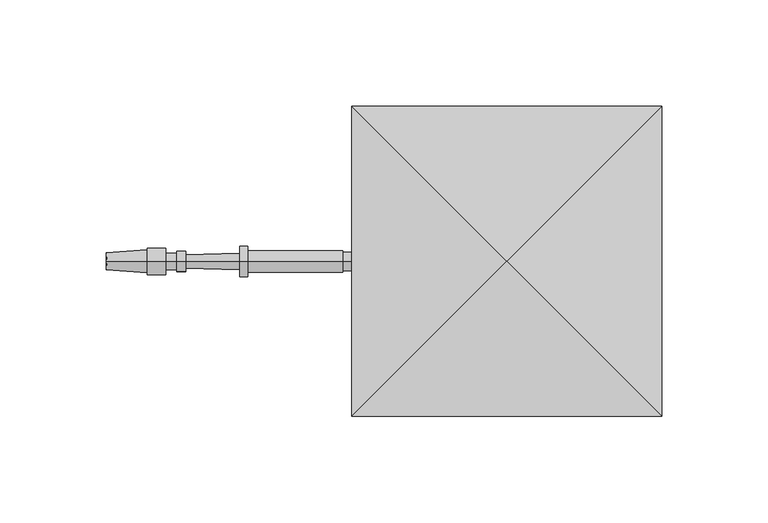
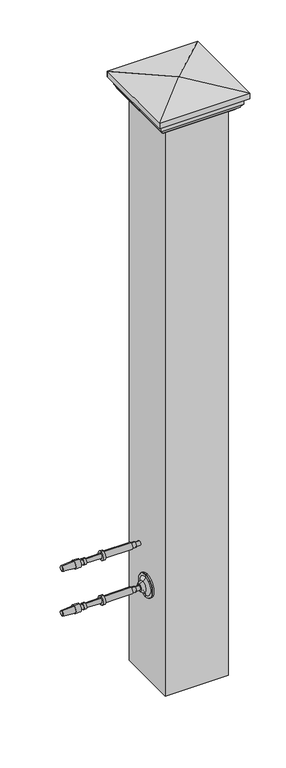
"""IFC4 building model written with IfcOpenShell, lengths in millimetres: railing geometry, RAILEASY CABLE RAILING CORNER TENSIONERS STAIR."""

from ifc_helpers import new_model, si_unit, point, frame, origin, place, context, project, spatial, polyline, circle_curve, ellipse_curve, trimmed, outline, extrude, source, transform, mapped, element, save
from ifc_brep_helpers import plane_surface, cylinder_surface, revolved_surface, advanced_brep


def railing_71b8d278(model_context):
    return source(origin(), model_context, "Body", "SolidModel", [
        advanced_brep(
        [(4032.408954, 20313.0866843, 32759.0282881), (4032.408954, 20313.0866843, 32766.1720381), (4032.408954, 20313.0866843, 32762.6001631), (3907.4650648, 20313.0866843, 32762.6001631), (3907.1694004, 20313.0866843, 32766.6246235), (3907.1694004, 20313.0866843, 32758.5757028), (3926.5127644, 20313.0866843, 32768.045719), (3926.5127644, 20313.0866843, 32757.1546072), (3926.5127644, 20313.0866843, 32768.9386877), (3926.5127644, 20313.0866843, 32756.2616385), (3935.1447956, 20313.0866843, 32768.9386877), (3935.1447956, 20313.0866843, 32756.2616385), (3935.1447956, 20313.0866843, 32766.5574377), (3935.1447956, 20313.0866843, 32758.6428885), (3940.5026081, 20313.0866843, 32766.5574377), (3940.5026081, 20313.0866843, 32758.6428885), (3940.5026081, 20313.0866843, 32767.3511877), (3940.5026081, 20313.0866843, 32757.8491385), (3944.5705769, 20313.0866843, 32767.3511877), (3944.5705769, 20313.0866843, 32757.8491385), (3944.614664, 20313.0866843, 32765.7643), (3944.614664, 20313.0866843, 32759.4360262), (3970.0048672, 20313.0866843, 32766.4696944), (3970.0048672, 20313.0866843, 32758.7306319), (3970.0048672, 20313.0866843, 32769.7439131), (3970.0048672, 20313.0866843, 32755.4564131), (3973.9736172, 20313.0866843, 32769.7439131), (3973.9736172, 20313.0866843, 32755.4564131), (3973.9736172, 20313.0866843, 32767.7595381), (3973.9736172, 20313.0866843, 32757.4407881), (4018.7212735, 20313.0866843, 32767.7595381), (4018.7212735, 20313.0866843, 32757.4407881), (4018.7212735, 20313.0866843, 32766.9657881), (4018.7212735, 20313.0866843, 32758.2345381), (4025.0712735, 20313.0866843, 32766.9657881), (4025.0712735, 20313.0866843, 32758.2345381), (4025.0712735, 20313.0866843, 32766.1720381), (4025.0712735, 20313.0866843, 32759.0282881)],
        [
            (0, 1, circle_curve(frame((4032.408954, 20313.0866843, 32762.6001631), z_axis=(1.0, 0.0, 0.0), x_axis=(0.0, 0.0, 1.0000000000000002)), 3.571875)),
            (1, 2),
            (2, 0),
            (1, 0, circle_curve(frame((4032.408954, 20313.0866843, 32762.6001631), z_axis=(1.0, 0.0, 0.0), x_axis=(0.0, 0.0, 1.0000000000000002)), 3.571875)),
            (3, 4),
            (4, 5, circle_curve(frame((3907.1694004, 20313.0866843, 32762.6001631), z_axis=(-1.0, 0.0, 0.0), x_axis=(0.0, 0.0, 1.0000000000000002)), 4.0244604)),
            (5, 3),
            (5, 4, circle_curve(frame((3907.1694004, 20313.0866843, 32762.6001631), z_axis=(-1.0, 0.0, 0.0), x_axis=(0.0, 0.0, 1.0000000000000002)), 4.0244604)),
            (4, 6),
            (6, 7, circle_curve(frame((3926.5127644, 20313.0866843, 32762.6001631), z_axis=(-1.0, 0.0, 0.0), x_axis=(0.0, 0.0, 1.0000000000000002)), 5.4455559)),
            (7, 5),
            (7, 6, circle_curve(frame((3926.5127644, 20313.0866843, 32762.6001631), z_axis=(-1.0, 0.0, 0.0), x_axis=(0.0, 0.0, 1.0000000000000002)), 5.4455559)),
            (6, 8),
            (8, 9, circle_curve(frame((3926.5127644, 20313.0866843, 32762.6001631), z_axis=(-1.0, 0.0, 0.0), x_axis=(0.0, 0.0, 1.0000000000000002)), 6.3385246)),
            (9, 7),
            (9, 8, circle_curve(frame((3926.5127644, 20313.0866843, 32762.6001631), z_axis=(-1.0, 0.0, 0.0), x_axis=(0.0, 0.0, 1.0000000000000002)), 6.3385246)),
            (8, 10),
            (10, 11, circle_curve(frame((3935.1447956, 20313.0866843, 32762.6001631), z_axis=(-1.0, 0.0, 0.0), x_axis=(0.0, 0.0, 1.0000000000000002)), 6.3385246)),
            (11, 9),
            (11, 10, circle_curve(frame((3935.1447956, 20313.0866843, 32762.6001631), z_axis=(-1.0, 0.0, 0.0), x_axis=(0.0, 0.0, 1.0000000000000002)), 6.3385246)),
            (10, 12),
            (12, 13, circle_curve(frame((3935.1447956, 20313.0866843, 32762.6001631), z_axis=(-1.0, 0.0, 0.0), x_axis=(0.0, 0.0, 1.0000000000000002)), 3.9572746)),
            (13, 11),
            (13, 12, circle_curve(frame((3935.1447956, 20313.0866843, 32762.6001631), z_axis=(-1.0, 0.0, 0.0), x_axis=(0.0, 0.0, 1.0000000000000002)), 3.9572746)),
            (12, 14),
            (14, 15, circle_curve(frame((3940.5026081, 20313.0866843, 32762.6001631), z_axis=(-1.0, 0.0, 0.0), x_axis=(0.0, 0.0, 1.0000000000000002)), 3.9572746)),
            (15, 13),
            (15, 14, circle_curve(frame((3940.5026081, 20313.0866843, 32762.6001631), z_axis=(-1.0, 0.0, 0.0), x_axis=(0.0, 0.0, 1.0000000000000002)), 3.9572746)),
            (14, 16),
            (16, 17, circle_curve(frame((3940.5026081, 20313.0866843, 32762.6001631), z_axis=(-1.0, 0.0, 0.0), x_axis=(0.0, 0.0, 1.0000000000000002)), 4.7510246)),
            (17, 15),
            (17, 16, circle_curve(frame((3940.5026081, 20313.0866843, 32762.6001631), z_axis=(-1.0, 0.0, 0.0), x_axis=(0.0, 0.0, 1.0000000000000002)), 4.7510246)),
            (16, 18),
            (18, 19, circle_curve(frame((3944.5705769, 20313.0866843, 32762.6001631), z_axis=(-1.0, 0.0, 0.0), x_axis=(0.0, 0.0, 1.0000000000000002)), 4.7510246)),
            (19, 17),
            (19, 18, circle_curve(frame((3944.5705769, 20313.0866843, 32762.6001631), z_axis=(-1.0, 0.0, 0.0), x_axis=(0.0, 0.0, 1.0000000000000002)), 4.7510246)),
            (18, 20),
            (20, 21, circle_curve(frame((3944.614664, 20313.0866843, 32762.6001631), z_axis=(-1.0, 0.0, 0.0), x_axis=(0.0, 0.0, 1.0000000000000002)), 3.1641369)),
            (21, 19),
            (21, 20, circle_curve(frame((3944.614664, 20313.0866843, 32762.6001631), z_axis=(-1.0, 0.0, 0.0), x_axis=(0.0, 0.0, 1.0000000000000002)), 3.1641369)),
            (20, 22),
            (22, 23, circle_curve(frame((3970.0048672, 20313.0866843, 32762.6001631), z_axis=(-1.0, 0.0, 0.0), x_axis=(0.0, 0.0, 1.0000000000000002)), 3.8695313)),
            (23, 21),
            (23, 22, circle_curve(frame((3970.0048672, 20313.0866843, 32762.6001631), z_axis=(-1.0, 0.0, 0.0), x_axis=(0.0, 0.0, 1.0000000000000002)), 3.8695313)),
            (22, 24),
            (24, 25, circle_curve(frame((3970.0048672, 20313.0866843, 32762.6001631), z_axis=(-1.0, 0.0, 0.0), x_axis=(0.0, 0.0, 1.0000000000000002)), 7.14375)),
            (25, 23),
            (25, 24, circle_curve(frame((3970.0048672, 20313.0866843, 32762.6001631), z_axis=(-1.0, 0.0, 0.0), x_axis=(0.0, 0.0, 1.0000000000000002)), 7.14375)),
            (24, 26),
            (26, 27, circle_curve(frame((3973.9736172, 20313.0866843, 32762.6001631), z_axis=(-1.0, 0.0, 0.0), x_axis=(0.0, 0.0, 1.0000000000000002)), 7.14375)),
            (27, 25),
            (27, 26, circle_curve(frame((3973.9736172, 20313.0866843, 32762.6001631), z_axis=(-1.0, 0.0, 0.0), x_axis=(0.0, 0.0, 1.0000000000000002)), 7.14375)),
            (26, 28),
            (28, 29, circle_curve(frame((3973.9736172, 20313.0866843, 32762.6001631), z_axis=(-1.0, 0.0, 0.0), x_axis=(0.0, 0.0, 1.0000000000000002)), 5.159375)),
            (29, 27),
            (29, 28, circle_curve(frame((3973.9736172, 20313.0866843, 32762.6001631), z_axis=(-1.0, 0.0, 0.0), x_axis=(0.0, 0.0, 1.0000000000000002)), 5.159375)),
            (28, 30),
            (30, 31, circle_curve(frame((4018.7212735, 20313.0866843, 32762.6001631), z_axis=(-1.0, 0.0, 0.0), x_axis=(0.0, 0.0, 1.0000000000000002)), 5.159375)),
            (31, 29),
            (31, 30, circle_curve(frame((4018.7212735, 20313.0866843, 32762.6001631), z_axis=(-1.0, 0.0, 0.0), x_axis=(0.0, 0.0, 1.0000000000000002)), 5.159375)),
            (30, 32),
            (32, 33, circle_curve(frame((4018.7212735, 20313.0866843, 32762.6001631), z_axis=(-1.0, 0.0, 0.0), x_axis=(0.0, 0.0, 1.0000000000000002)), 4.365625)),
            (33, 31),
            (33, 32, circle_curve(frame((4018.7212735, 20313.0866843, 32762.6001631), z_axis=(-1.0, 0.0, 0.0), x_axis=(0.0, 0.0, 1.0000000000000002)), 4.365625)),
            (32, 34),
            (34, 35, circle_curve(frame((4025.0712735, 20313.0866843, 32762.6001631), z_axis=(-1.0, 0.0, 0.0), x_axis=(0.0, 0.0, 1.0000000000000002)), 4.365625)),
            (35, 33),
            (35, 34, circle_curve(frame((4025.0712735, 20313.0866843, 32762.6001631), z_axis=(-1.0, 0.0, 0.0), x_axis=(0.0, 0.0, 1.0000000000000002)), 4.365625)),
            (34, 36),
            (36, 37, circle_curve(frame((4025.0712735, 20313.0866843, 32762.6001631), z_axis=(-1.0, 0.0, 0.0), x_axis=(0.0, 0.0, 1.0000000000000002)), 3.571875)),
            (37, 35),
            (37, 36, circle_curve(frame((4025.0712735, 20313.0866843, 32762.6001631), z_axis=(-1.0, 0.0, 0.0), x_axis=(0.0, 0.0, 1.0000000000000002)), 3.571875)),
            (36, 1),
            (0, 37),
        ],
        [
            plane_surface(frame((4032.408954, 20313.0866843, 32762.6001631), z_axis=(1.0, 0.0, 0.0), x_axis=(0.0, 0.0, 1.0))),
            revolved_surface(polyline([(3907.1694004, 20313.0866843, 32766.6246235), (3907.4650648, 20313.0866843, 32762.6001631)]), (3907.4650648, 20313.0866843, 32762.6001631), (-1.0, 0.0, 0.0)),
            revolved_surface(polyline([(3926.5127644, 20313.0866843, 32768.045719), (3907.1694004, 20313.0866843, 32766.6246235)]), (3907.4650648, 20313.0866843, 32762.6001631), (-1.0, 0.0, 0.0)),
            plane_surface(frame((3926.5127644, 20313.0866843, 32762.6001631), z_axis=(-1.0, 0.0, 0.0), x_axis=(0.0, 0.0, 1.0))),
            cylinder_surface(frame((3907.4650648, 20313.0866843, 32762.6001631), z_axis=(-1.0, 0.0, 0.0), x_axis=(0.0, 0.0, 1.0000000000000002)), 6.3385246),
            plane_surface(frame((3935.1447956, 20313.0866843, 32762.6001631), z_axis=(1.0, 0.0, 0.0), x_axis=(0.0, 0.0, 1.0))),
            cylinder_surface(frame((3907.4650648, 20313.0866843, 32762.6001631), z_axis=(-1.0, 0.0, 0.0), x_axis=(0.0, 0.0, 1.0000000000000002)), 3.9572746),
            plane_surface(frame((3940.5026081, 20313.0866843, 32762.6001631), z_axis=(-1.0, 0.0, 0.0), x_axis=(0.0, 0.0, 1.0))),
            cylinder_surface(frame((3907.4650648, 20313.0866843, 32762.6001631), z_axis=(-1.0, 0.0, 0.0), x_axis=(0.0, 0.0, 1.0000000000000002)), 4.7510246),
            plane_surface(frame((3944.614664, 20313.0866843, 32762.6001631), z_axis=(1.0, 0.0, 0.0), x_axis=(0.0, 0.0, 1.0))),
            revolved_surface(polyline([(3970.0048672, 20313.0866843, 32766.4696944), (3944.614664, 20313.0866843, 32765.7643)]), (3907.4650648, 20313.0866843, 32762.6001631), (-1.0, 0.0, 0.0)),
            plane_surface(frame((3970.0048672, 20313.0866843, 32762.6001631), z_axis=(-1.0, 0.0, 0.0), x_axis=(0.0, 0.0, 1.0))),
            cylinder_surface(frame((3907.4650648, 20313.0866843, 32762.6001631), z_axis=(-1.0, 0.0, 0.0), x_axis=(0.0, 0.0, 1.0000000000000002)), 7.14375),
            plane_surface(frame((3973.9736172, 20313.0866843, 32762.6001631), z_axis=(1.0, 0.0, 0.0), x_axis=(0.0, 0.0, 1.0))),
            cylinder_surface(frame((3907.4650648, 20313.0866843, 32762.6001631), z_axis=(-1.0, 0.0, 0.0), x_axis=(0.0, 0.0, 1.0000000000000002)), 5.159375),
            plane_surface(frame((4018.7212735, 20313.0866843, 32762.6001631), z_axis=(1.0, 0.0, 0.0), x_axis=(0.0, 0.0, 1.0))),
            cylinder_surface(frame((3907.4650648, 20313.0866843, 32762.6001631), z_axis=(-1.0, 0.0, 0.0), x_axis=(0.0, 0.0, 1.0000000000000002)), 4.365625),
            plane_surface(frame((4025.0712735, 20313.0866843, 32762.6001631), z_axis=(1.0, 0.0, 0.0), x_axis=(0.0, 0.0, 1.0))),
            cylinder_surface(frame((3907.4650648, 20313.0866843, 32762.6001631), z_axis=(-1.0, 0.0, 0.0), x_axis=(0.0, 0.0, 1.0000000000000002)), 3.571875),
        ],
        [
            (0, [[1, 2, 3]]),
            (0, [[4, -3, -2]]),
            (1, [[5, 6, 7]]),
            (1, [[-7, 8, -5]]),
            (2, [[-6, 9, 10, 11]]),
            (2, [[-8, -11, 12, -9]]),
            (3, [[-10, 13, 14, 15]]),
            (3, [[-12, -15, 16, -13]]),
            (4, [[-14, 17, 18, 19]]),
            (4, [[-16, -19, 20, -17]]),
            (5, [[-18, 21, 22, 23]]),
            (5, [[-20, -23, 24, -21]]),
            (6, [[-22, 25, 26, 27]]),
            (6, [[-24, -27, 28, -25]]),
            (7, [[-26, 29, 30, 31]]),
            (7, [[-28, -31, 32, -29]]),
            (8, [[-30, 33, 34, 35]]),
            (8, [[-32, -35, 36, -33]]),
            (9, [[-34, 37, 38, 39]]),
            (9, [[-36, -39, 40, -37]]),
            (10, [[-38, 41, 42, 43]]),
            (10, [[-40, -43, 44, -41]]),
            (11, [[-42, 45, 46, 47]]),
            (11, [[-44, -47, 48, -45]]),
            (12, [[-46, 49, 50, 51]]),
            (12, [[-48, -51, 52, -49]]),
            (13, [[-50, 53, 54, 55]]),
            (13, [[-52, -55, 56, -53]]),
            (14, [[-54, 57, 58, 59]]),
            (14, [[-56, -59, 60, -57]]),
            (15, [[-58, 61, 62, 63]]),
            (15, [[-60, -63, 64, -61]]),
            (16, [[-62, 65, 66, 67]]),
            (16, [[-64, -67, 68, -65]]),
            (17, [[-66, 69, 70, 71]]),
            (17, [[-68, -71, 72, -69]]),
            (18, [[-70, 73, -1, 74]]),
            (18, [[-72, -74, -4, -73]]),
        ],
    ),
        advanced_brep(
        [(4045.1015906, 20313.0866843, 32686.4001631), (4045.1015906, 20313.0866843, 32667.3501631), (4045.1015906, 20313.0866843, 32705.4501631), (4032.408954, 20313.0866843, 32680.8769785), (4032.408954, 20313.0866843, 32686.4001631), (4032.408954, 20313.0866843, 32691.9233478), (4037.6850504, 20313.0866843, 32677.2720381), (4037.6850504, 20313.0866843, 32695.5282881), (4042.0506754, 20313.0866843, 32671.6458254), (4042.0506754, 20313.0866843, 32701.1545009), (4042.0506754, 20313.0866843, 32667.7762941), (4042.0506754, 20313.0866843, 32705.0240321), (4042.7203406, 20313.0866843, 32667.3501631), (4042.7203406, 20313.0866843, 32705.4501631)],
        [
            (0, 1),
            (1, 2, circle_curve(frame((4045.1015906, 20313.0866843, 32686.4001631), z_axis=(1.0, 0.0, 0.0), x_axis=(0.0, 0.0, 1.0)), 19.05)),
            (2, 0),
            (2, 1, circle_curve(frame((4045.1015906, 20313.0866843, 32686.4001631), z_axis=(1.0, 0.0, 0.0), x_axis=(0.0, 0.0, 1.0)), 19.05)),
            (3, 4),
            (4, 5),
            (5, 3, circle_curve(frame((4032.408954, 20313.0866843, 32686.4001631), z_axis=(-1.0, 0.0, 0.0), x_axis=(0.0, 0.0, 1.0)), 5.5231846)),
            (3, 5, circle_curve(frame((4032.408954, 20313.0866843, 32686.4001631), z_axis=(-1.0, 0.0, 0.0), x_axis=(0.0, 0.0, 1.0)), 5.5231846)),
            (6, 3, circle_curve(frame((4040.0094591, 20313.0866843, 32686.3374304), z_axis=(0.0, 1.0, 0.0), x_axis=(-1.0, 0.0, 0.0)), 9.3586438)),
            (5, 7, circle_curve(frame((4040.0094591, 20313.0866843, 32686.4628958), z_axis=(0.0, 1.0, 0.0), x_axis=(-1.0, 0.0, 0.0)), 9.3586438)),
            (7, 6, circle_curve(frame((4037.6850504, 20313.0866843, 32686.4001631), z_axis=(-1.0, 0.0, 0.0), x_axis=(0.0, 0.0, 1.0)), 9.128125)),
            (6, 7, circle_curve(frame((4037.6850504, 20313.0866843, 32686.4001631), z_axis=(-1.0, 0.0, 0.0), x_axis=(0.0, 0.0, 1.0)), 9.128125)),
            (8, 6, circle_curve(frame((4036.2424634, 20313.0866843, 32671.6458254), z_axis=(0.0, -1.0, 0.0), x_axis=(-1.0, 0.0, 0.0)), 5.8082121)),
            (7, 9, circle_curve(frame((4036.2424634, 20313.0866843, 32701.1545009), z_axis=(0.0, -1.0, 0.0), x_axis=(-1.0, 0.0, 0.0)), 5.8082121)),
            (9, 8, circle_curve(frame((4042.0506754, 20313.0866843, 32686.4001631), z_axis=(-1.0, 0.0, 0.0), x_axis=(0.0, 0.0, 1.0)), 14.7543378)),
            (8, 9, circle_curve(frame((4042.0506754, 20313.0866843, 32686.4001631), z_axis=(-1.0, 0.0, 0.0), x_axis=(0.0, 0.0, 1.0)), 14.7543378)),
            (10, 8),
            (9, 11),
            (11, 10, circle_curve(frame((4042.0506754, 20313.0866843, 32686.4001631), z_axis=(-1.0, 0.0, 0.0), x_axis=(0.0, 0.0, 1.0)), 18.623869)),
            (10, 11, circle_curve(frame((4042.0506754, 20313.0866843, 32686.4001631), z_axis=(-1.0, 0.0, 0.0), x_axis=(0.0, 0.0, 1.0)), 18.623869)),
            (12, 10),
            (11, 13),
            (13, 12, circle_curve(frame((4042.7203406, 20313.0866843, 32686.4001631), z_axis=(-1.0, 0.0, 0.0), x_axis=(0.0, 0.0, 1.0)), 19.05)),
            (12, 13, circle_curve(frame((4042.7203406, 20313.0866843, 32686.4001631), z_axis=(-1.0, 0.0, 0.0), x_axis=(0.0, 0.0, 1.0)), 19.05)),
            (1, 12),
            (13, 2),
        ],
        [
            plane_surface(frame((4045.1015906, 20313.0866843, 32686.4001631), z_axis=(1.0, 0.0, 0.0), x_axis=(0.0, 0.0, 1.0))),
            plane_surface(frame((4032.408954, 20313.0866843, 32686.4001631), z_axis=(-1.0, 0.0, 0.0), x_axis=(0.0, 0.0, 1.0))),
            revolved_surface(trimmed(ellipse_curve(frame((4040.0094591, 20313.0866843, 32686.4628958), z_axis=(0.0, 1.0, 0.0), x_axis=(-1.0, 0.0, 0.0)), 9.3586438, 9.3586438), [point((4032.408954, 20313.0866843, 32691.9233478))], [point((4037.6850504, 20313.0866843, 32695.5282881))], True, "CARTESIAN"), (4045.1015906, 20313.0866843, 32686.4001631), (1.0, 0.0, 0.0)),
            revolved_surface(trimmed(ellipse_curve(frame((4036.2424634, 20313.0866843, 32701.1545009), z_axis=(0.0, -1.0, 0.0), x_axis=(-1.0, 0.0, 0.0)), 5.8082121, 5.8082121), [point((4037.6850504, 20313.0866843, 32695.5282881))], [point((4042.0506754, 20313.0866843, 32701.1545009))], True, "CARTESIAN"), (4045.1015906, 20313.0866843, 32686.4001631), (1.0, 0.0, 0.0)),
            plane_surface(frame((4042.0506754, 20313.0866843, 32686.4001631), z_axis=(-1.0, 0.0, 0.0), x_axis=(0.0, 0.0, 1.0))),
            revolved_surface(polyline([(4042.0506754, 20313.0866843, 32705.0240321), (4042.7203406, 20313.0866843, 32705.4501631)]), (4045.1015906, 20313.0866843, 32686.4001631), (1.0, 0.0, 0.0)),
            cylinder_surface(frame((4045.1015906, 20313.0866843, 32686.4001631), z_axis=(1.0, 0.0, 0.0), x_axis=(0.0, 0.0, 1.0)), 19.05),
        ],
        [
            (0, [[1, 2, 3]]),
            (0, [[-3, 4, -1]]),
            (1, [[5, 6, 7]]),
            (1, [[-6, -5, 8]]),
            (2, [[9, -7, 10, 11]]),
            (2, [[-10, -8, -9, 12]]),
            (3, [[13, -11, 14, 15]]),
            (3, [[-14, -12, -13, 16]]),
            (4, [[17, -15, 18, 19]]),
            (4, [[-18, -16, -17, 20]]),
            (5, [[21, -19, 22, 23]]),
            (5, [[-22, -20, -21, 24]]),
            (6, [[25, -23, 26, -2]]),
            (6, [[-26, -24, -25, -4]]),
        ],
    ),
        advanced_brep(
        [(4032.408954, 20313.0866843, 32682.8282881), (4032.408954, 20313.0866843, 32689.9720381), (4032.408954, 20313.0866843, 32686.4001631), (3907.4650648, 20313.0866843, 32686.4001631), (3907.1694004, 20313.0866843, 32690.4246235), (3907.1694004, 20313.0866843, 32682.3757028), (3926.5127644, 20313.0866843, 32691.845719), (3926.5127644, 20313.0866843, 32680.9546072), (3926.5127644, 20313.0866843, 32692.7386877), (3926.5127644, 20313.0866843, 32680.0616385), (3935.1447956, 20313.0866843, 32692.7386877), (3935.1447956, 20313.0866843, 32680.0616385), (3935.1447956, 20313.0866843, 32690.3574377), (3935.1447956, 20313.0866843, 32682.4428885), (3940.5026081, 20313.0866843, 32690.3574377), (3940.5026081, 20313.0866843, 32682.4428885), (3940.5026081, 20313.0866843, 32691.1511877), (3940.5026081, 20313.0866843, 32681.6491385), (3944.5705769, 20313.0866843, 32691.1511877), (3944.5705769, 20313.0866843, 32681.6491385), (3944.614664, 20313.0866843, 32689.5643), (3944.614664, 20313.0866843, 32683.2360262), (3970.0048672, 20313.0866843, 32690.2696944), (3970.0048672, 20313.0866843, 32682.5306319), (3970.0048672, 20313.0866843, 32693.5439131), (3970.0048672, 20313.0866843, 32679.2564131), (3973.9736172, 20313.0866843, 32693.5439131), (3973.9736172, 20313.0866843, 32679.2564131), (3973.9736172, 20313.0866843, 32691.5595381), (3973.9736172, 20313.0866843, 32681.2407881), (4018.7212735, 20313.0866843, 32691.5595381), (4018.7212735, 20313.0866843, 32681.2407881), (4018.7212735, 20313.0866843, 32690.7657881), (4018.7212735, 20313.0866843, 32682.0345381), (4025.0712735, 20313.0866843, 32690.7657881), (4025.0712735, 20313.0866843, 32682.0345381), (4025.0712735, 20313.0866843, 32689.9720381), (4025.0712735, 20313.0866843, 32682.8282881)],
        [
            (0, 1, circle_curve(frame((4032.408954, 20313.0866843, 32686.4001631), z_axis=(1.0, 0.0, 0.0), x_axis=(0.0, 0.0, 1.0000000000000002)), 3.571875)),
            (1, 2),
            (2, 0),
            (1, 0, circle_curve(frame((4032.408954, 20313.0866843, 32686.4001631), z_axis=(1.0, 0.0, 0.0), x_axis=(0.0, 0.0, 1.0000000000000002)), 3.571875)),
            (3, 4),
            (4, 5, circle_curve(frame((3907.1694004, 20313.0866843, 32686.4001631), z_axis=(-1.0, 0.0, 0.0), x_axis=(0.0, 0.0, 1.0000000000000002)), 4.0244604)),
            (5, 3),
            (5, 4, circle_curve(frame((3907.1694004, 20313.0866843, 32686.4001631), z_axis=(-1.0, 0.0, 0.0), x_axis=(0.0, 0.0, 1.0000000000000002)), 4.0244604)),
            (4, 6),
            (6, 7, circle_curve(frame((3926.5127644, 20313.0866843, 32686.4001631), z_axis=(-1.0, 0.0, 0.0), x_axis=(0.0, 0.0, 1.0000000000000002)), 5.4455559)),
            (7, 5),
            (7, 6, circle_curve(frame((3926.5127644, 20313.0866843, 32686.4001631), z_axis=(-1.0, 0.0, 0.0), x_axis=(0.0, 0.0, 1.0000000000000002)), 5.4455559)),
            (6, 8),
            (8, 9, circle_curve(frame((3926.5127644, 20313.0866843, 32686.4001631), z_axis=(-1.0, 0.0, 0.0), x_axis=(0.0, 0.0, 1.0000000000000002)), 6.3385246)),
            (9, 7),
            (9, 8, circle_curve(frame((3926.5127644, 20313.0866843, 32686.4001631), z_axis=(-1.0, 0.0, 0.0), x_axis=(0.0, 0.0, 1.0000000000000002)), 6.3385246)),
            (8, 10),
            (10, 11, circle_curve(frame((3935.1447956, 20313.0866843, 32686.4001631), z_axis=(-1.0, 0.0, 0.0), x_axis=(0.0, 0.0, 1.0000000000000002)), 6.3385246)),
            (11, 9),
            (11, 10, circle_curve(frame((3935.1447956, 20313.0866843, 32686.4001631), z_axis=(-1.0, 0.0, 0.0), x_axis=(0.0, 0.0, 1.0000000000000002)), 6.3385246)),
            (10, 12),
            (12, 13, circle_curve(frame((3935.1447956, 20313.0866843, 32686.4001631), z_axis=(-1.0, 0.0, 0.0), x_axis=(0.0, 0.0, 1.0000000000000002)), 3.9572746)),
            (13, 11),
            (13, 12, circle_curve(frame((3935.1447956, 20313.0866843, 32686.4001631), z_axis=(-1.0, 0.0, 0.0), x_axis=(0.0, 0.0, 1.0000000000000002)), 3.9572746)),
            (12, 14),
            (14, 15, circle_curve(frame((3940.5026081, 20313.0866843, 32686.4001631), z_axis=(-1.0, 0.0, 0.0), x_axis=(0.0, 0.0, 1.0000000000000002)), 3.9572746)),
            (15, 13),
            (15, 14, circle_curve(frame((3940.5026081, 20313.0866843, 32686.4001631), z_axis=(-1.0, 0.0, 0.0), x_axis=(0.0, 0.0, 1.0000000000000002)), 3.9572746)),
            (14, 16),
            (16, 17, circle_curve(frame((3940.5026081, 20313.0866843, 32686.4001631), z_axis=(-1.0, 0.0, 0.0), x_axis=(0.0, 0.0, 1.0000000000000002)), 4.7510246)),
            (17, 15),
            (17, 16, circle_curve(frame((3940.5026081, 20313.0866843, 32686.4001631), z_axis=(-1.0, 0.0, 0.0), x_axis=(0.0, 0.0, 1.0000000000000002)), 4.7510246)),
            (16, 18),
            (18, 19, circle_curve(frame((3944.5705769, 20313.0866843, 32686.4001631), z_axis=(-1.0, 0.0, 0.0), x_axis=(0.0, 0.0, 1.0000000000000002)), 4.7510246)),
            (19, 17),
            (19, 18, circle_curve(frame((3944.5705769, 20313.0866843, 32686.4001631), z_axis=(-1.0, 0.0, 0.0), x_axis=(0.0, 0.0, 1.0000000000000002)), 4.7510246)),
            (18, 20),
            (20, 21, circle_curve(frame((3944.614664, 20313.0866843, 32686.4001631), z_axis=(-1.0, 0.0, 0.0), x_axis=(0.0, 0.0, 1.0000000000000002)), 3.1641369)),
            (21, 19),
            (21, 20, circle_curve(frame((3944.614664, 20313.0866843, 32686.4001631), z_axis=(-1.0, 0.0, 0.0), x_axis=(0.0, 0.0, 1.0000000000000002)), 3.1641369)),
            (20, 22),
            (22, 23, circle_curve(frame((3970.0048672, 20313.0866843, 32686.4001631), z_axis=(-1.0, 0.0, 0.0), x_axis=(0.0, 0.0, 1.0000000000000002)), 3.8695313)),
            (23, 21),
            (23, 22, circle_curve(frame((3970.0048672, 20313.0866843, 32686.4001631), z_axis=(-1.0, 0.0, 0.0), x_axis=(0.0, 0.0, 1.0000000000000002)), 3.8695313)),
            (22, 24),
            (24, 25, circle_curve(frame((3970.0048672, 20313.0866843, 32686.4001631), z_axis=(-1.0, 0.0, 0.0), x_axis=(0.0, 0.0, 1.0000000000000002)), 7.14375)),
            (25, 23),
            (25, 24, circle_curve(frame((3970.0048672, 20313.0866843, 32686.4001631), z_axis=(-1.0, 0.0, 0.0), x_axis=(0.0, 0.0, 1.0000000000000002)), 7.14375)),
            (24, 26),
            (26, 27, circle_curve(frame((3973.9736172, 20313.0866843, 32686.4001631), z_axis=(-1.0, 0.0, 0.0), x_axis=(0.0, 0.0, 1.0000000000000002)), 7.14375)),
            (27, 25),
            (27, 26, circle_curve(frame((3973.9736172, 20313.0866843, 32686.4001631), z_axis=(-1.0, 0.0, 0.0), x_axis=(0.0, 0.0, 1.0000000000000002)), 7.14375)),
            (26, 28),
            (28, 29, circle_curve(frame((3973.9736172, 20313.0866843, 32686.4001631), z_axis=(-1.0, 0.0, 0.0), x_axis=(0.0, 0.0, 1.0000000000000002)), 5.159375)),
            (29, 27),
            (29, 28, circle_curve(frame((3973.9736172, 20313.0866843, 32686.4001631), z_axis=(-1.0, 0.0, 0.0), x_axis=(0.0, 0.0, 1.0000000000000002)), 5.159375)),
            (28, 30),
            (30, 31, circle_curve(frame((4018.7212735, 20313.0866843, 32686.4001631), z_axis=(-1.0, 0.0, 0.0), x_axis=(0.0, 0.0, 1.0000000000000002)), 5.159375)),
            (31, 29),
            (31, 30, circle_curve(frame((4018.7212735, 20313.0866843, 32686.4001631), z_axis=(-1.0, 0.0, 0.0), x_axis=(0.0, 0.0, 1.0000000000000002)), 5.159375)),
            (30, 32),
            (32, 33, circle_curve(frame((4018.7212735, 20313.0866843, 32686.4001631), z_axis=(-1.0, 0.0, 0.0), x_axis=(0.0, 0.0, 1.0000000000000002)), 4.365625)),
            (33, 31),
            (33, 32, circle_curve(frame((4018.7212735, 20313.0866843, 32686.4001631), z_axis=(-1.0, 0.0, 0.0), x_axis=(0.0, 0.0, 1.0000000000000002)), 4.365625)),
            (32, 34),
            (34, 35, circle_curve(frame((4025.0712735, 20313.0866843, 32686.4001631), z_axis=(-1.0, 0.0, 0.0), x_axis=(0.0, 0.0, 1.0000000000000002)), 4.365625)),
            (35, 33),
            (35, 34, circle_curve(frame((4025.0712735, 20313.0866843, 32686.4001631), z_axis=(-1.0, 0.0, 0.0), x_axis=(0.0, 0.0, 1.0000000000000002)), 4.365625)),
            (34, 36),
            (36, 37, circle_curve(frame((4025.0712735, 20313.0866843, 32686.4001631), z_axis=(-1.0, 0.0, 0.0), x_axis=(0.0, 0.0, 1.0000000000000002)), 3.571875)),
            (37, 35),
            (37, 36, circle_curve(frame((4025.0712735, 20313.0866843, 32686.4001631), z_axis=(-1.0, 0.0, 0.0), x_axis=(0.0, 0.0, 1.0000000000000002)), 3.571875)),
            (36, 1),
            (0, 37),
        ],
        [
            plane_surface(frame((4032.408954, 20313.0866843, 32686.4001631), z_axis=(1.0, 0.0, 0.0), x_axis=(0.0, 0.0, 1.0))),
            revolved_surface(polyline([(3907.1694004, 20313.0866843, 32690.4246235), (3907.4650648, 20313.0866843, 32686.4001631)]), (3907.4650648, 20313.0866843, 32686.4001631), (-1.0, 0.0, 0.0)),
            revolved_surface(polyline([(3926.5127644, 20313.0866843, 32691.845719), (3907.1694004, 20313.0866843, 32690.4246235)]), (3907.4650648, 20313.0866843, 32686.4001631), (-1.0, 0.0, 0.0)),
            plane_surface(frame((3926.5127644, 20313.0866843, 32686.4001631), z_axis=(-1.0, 0.0, 0.0), x_axis=(0.0, 0.0, 1.0))),
            cylinder_surface(frame((3907.4650648, 20313.0866843, 32686.4001631), z_axis=(-1.0, 0.0, 0.0), x_axis=(0.0, 0.0, 1.0000000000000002)), 6.3385246),
            plane_surface(frame((3935.1447956, 20313.0866843, 32686.4001631), z_axis=(1.0, 0.0, 0.0), x_axis=(0.0, 0.0, 1.0))),
            cylinder_surface(frame((3907.4650648, 20313.0866843, 32686.4001631), z_axis=(-1.0, 0.0, 0.0), x_axis=(0.0, 0.0, 1.0000000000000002)), 3.9572746),
            plane_surface(frame((3940.5026081, 20313.0866843, 32686.4001631), z_axis=(-1.0, 0.0, 0.0), x_axis=(0.0, 0.0, 1.0))),
            cylinder_surface(frame((3907.4650648, 20313.0866843, 32686.4001631), z_axis=(-1.0, 0.0, 0.0), x_axis=(0.0, 0.0, 1.0000000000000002)), 4.7510246),
            plane_surface(frame((3944.614664, 20313.0866843, 32686.4001631), z_axis=(1.0, 0.0, 0.0), x_axis=(0.0, 0.0, 1.0))),
            revolved_surface(polyline([(3970.0048672, 20313.0866843, 32690.2696944), (3944.614664, 20313.0866843, 32689.5643)]), (3907.4650648, 20313.0866843, 32686.4001631), (-1.0, 0.0, 0.0)),
            plane_surface(frame((3970.0048672, 20313.0866843, 32686.4001631), z_axis=(-1.0, 0.0, 0.0), x_axis=(0.0, 0.0, 1.0))),
            cylinder_surface(frame((3907.4650648, 20313.0866843, 32686.4001631), z_axis=(-1.0, 0.0, 0.0), x_axis=(0.0, 0.0, 1.0000000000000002)), 7.14375),
            plane_surface(frame((3973.9736172, 20313.0866843, 32686.4001631), z_axis=(1.0, 0.0, 0.0), x_axis=(0.0, 0.0, 1.0))),
            cylinder_surface(frame((3907.4650648, 20313.0866843, 32686.4001631), z_axis=(-1.0, 0.0, 0.0), x_axis=(0.0, 0.0, 1.0000000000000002)), 5.159375),
            plane_surface(frame((4018.7212735, 20313.0866843, 32686.4001631), z_axis=(1.0, 0.0, 0.0), x_axis=(0.0, 0.0, 1.0))),
            cylinder_surface(frame((3907.4650648, 20313.0866843, 32686.4001631), z_axis=(-1.0, 0.0, 0.0), x_axis=(0.0, 0.0, 1.0000000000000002)), 4.365625),
            plane_surface(frame((4025.0712735, 20313.0866843, 32686.4001631), z_axis=(1.0, 0.0, 0.0), x_axis=(0.0, 0.0, 1.0))),
            cylinder_surface(frame((3907.4650648, 20313.0866843, 32686.4001631), z_axis=(-1.0, 0.0, 0.0), x_axis=(0.0, 0.0, 1.0000000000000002)), 3.571875),
        ],
        [
            (0, [[1, 2, 3]]),
            (0, [[4, -3, -2]]),
            (1, [[5, 6, 7]]),
            (1, [[-7, 8, -5]]),
            (2, [[-6, 9, 10, 11]]),
            (2, [[-8, -11, 12, -9]]),
            (3, [[-10, 13, 14, 15]]),
            (3, [[-12, -15, 16, -13]]),
            (4, [[-14, 17, 18, 19]]),
            (4, [[-16, -19, 20, -17]]),
            (5, [[-18, 21, 22, 23]]),
            (5, [[-20, -23, 24, -21]]),
            (6, [[-22, 25, 26, 27]]),
            (6, [[-24, -27, 28, -25]]),
            (7, [[-26, 29, 30, 31]]),
            (7, [[-28, -31, 32, -29]]),
            (8, [[-30, 33, 34, 35]]),
            (8, [[-32, -35, 36, -33]]),
            (9, [[-34, 37, 38, 39]]),
            (9, [[-36, -39, 40, -37]]),
            (10, [[-38, 41, 42, 43]]),
            (10, [[-40, -43, 44, -41]]),
            (11, [[-42, 45, 46, 47]]),
            (11, [[-44, -47, 48, -45]]),
            (12, [[-46, 49, 50, 51]]),
            (12, [[-48, -51, 52, -49]]),
            (13, [[-50, 53, 54, 55]]),
            (13, [[-52, -55, 56, -53]]),
            (14, [[-54, 57, 58, 59]]),
            (14, [[-56, -59, 60, -57]]),
            (15, [[-58, 61, 62, 63]]),
            (15, [[-60, -63, 64, -61]]),
            (16, [[-62, 65, 66, 67]]),
            (16, [[-64, -67, 68, -65]]),
            (17, [[-66, 69, 70, 71]]),
            (17, [[-68, -71, 72, -69]]),
            (18, [[-70, 73, -1, 74]]),
            (18, [[-72, -74, -4, -73]]),
        ],
    ),
        extrude(outline(polyline([(4146.7188898, 20363.8866843), (4146.7188898, 20262.2866843), (4045.1188898, 20262.2866843), (4045.1188898, 20363.8866843), (4146.7188898, 20363.8866843)])), frame((0.0, 0.0, 32527.3789062), z_axis=(0.0, 0.0, 1.0), x_axis=(1.0, 0.0, 0.0)), (0.0, 0.0, 1.0), 965.2),
        advanced_brep(
        [(4168.9438898, 20240.0616843, 33527.5039062), (4095.9188898, 20313.0866843, 33537.0289063), (4022.8938898, 20240.0616843, 33527.5039062), (4168.9438898, 20240.0616843, 33517.9789062), (4022.8938898, 20240.0616843, 33517.9789062), (4162.5938898, 20246.4116843, 33517.9789062), (4029.2438898, 20246.4116843, 33517.9789062), (4162.5938898, 20246.4116843, 33506.8203026), (4029.2438898, 20246.4116843, 33506.8203026), (4158.922796, 20250.082778, 33500.5164062), (4032.9149835, 20250.082778, 33500.5164062), (4155.747796, 20253.257778, 33500.5164062), (4036.0899835, 20253.257778, 33500.5164062), (4149.397796, 20259.607778, 33494.1664062), (4042.4399835, 20259.607778, 33494.1664062), (4149.397796, 20259.607778, 33492.5789063), (4042.4399835, 20259.607778, 33492.5789063), (4095.9188898, 20313.0866843, 33492.5789063)],
        [
            (0, 1),
            (1, 2),
            (2, 0),
            (3, 0),
            (2, 4),
            (4, 3),
            (5, 3),
            (4, 6),
            (6, 5),
            (7, 5),
            (6, 8),
            (8, 7),
            (9, 7, ellipse_curve(frame((4171.622796, 20237.382778, 33497.3414063), z_axis=(0.7071067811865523, 0.7071067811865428, 0.0), x_axis=(0.7071067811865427, -0.7071067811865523, 0.0)), 18.5132723, 13.0908604)),
            (8, 10, ellipse_curve(frame((4020.2149835, 20237.382778, 33497.3414063), z_axis=(-0.7071067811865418, 0.7071067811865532, 0.0), x_axis=(0.7071067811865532, 0.7071067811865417, 0.0)), 18.5132723, 13.0908604)),
            (10, 9),
            (11, 9),
            (10, 12),
            (12, 11),
            (13, 11, ellipse_curve(frame((4149.397796, 20259.607778, 33500.5164062), z_axis=(-0.7071067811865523, -0.7071067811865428, 0.0), x_axis=(-0.7071067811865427, 0.7071067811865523, 0.0)), 8.9802561, 6.35)),
            (12, 14, ellipse_curve(frame((4042.4399835, 20259.607778, 33500.5164062), z_axis=(0.7071067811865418, -0.7071067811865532, 0.0), x_axis=(-0.7071067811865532, -0.7071067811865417, 0.0)), 8.9802561, 6.35)),
            (14, 13),
            (15, 13),
            (14, 16),
            (16, 15),
            (17, 15),
            (16, 17),
            (17, 1),
        ],
        [
            plane_surface(frame((3978.7171811, 20240.0616843, 33527.5039062), z_axis=(0.0, -0.12933918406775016, 0.9916004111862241), x_axis=(1.0, 0.0, 0.0))),
            plane_surface(frame((3978.7171811, 20240.0616843, 33517.9789062), z_axis=(0.0, -1.0, 0.0), x_axis=(1.0, 0.0, 0.0))),
            plane_surface(frame((3978.7171811, 20246.4116843, 33517.9789062), z_axis=(0.0, 0.0, -1.0), x_axis=(1.0, 0.0, 0.0))),
            plane_surface(frame((3978.7171811, 20246.4116843, 33506.8203026), z_axis=(0.0, -1.0, 0.0), x_axis=(1.0, 0.0, 0.0))),
            revolved_surface(polyline([(4184.713656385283, 20250.4736384, 33497.3414063), (4007.124123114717, 20250.4736384, 33497.3414063)]), (4205.2124692, 20237.382778, 33497.3414063), (1.0, 0.0, 0.0)),
            plane_surface(frame((3978.7171811, 20253.257778, 33500.5164062), z_axis=(0.0, 0.0, -1.0), x_axis=(1.0, 0.0, 0.0))),
            cylinder_surface(frame((4205.2124692, 20259.607778, 33500.5164062), z_axis=(-1.0, 0.0, 0.0), x_axis=(0.0, 1.0, 0.0)), 6.35),
            plane_surface(frame((3978.7171811, 20259.607778, 33492.5789063), z_axis=(0.0, -1.0, 0.0), x_axis=(1.0, 0.0, 0.0))),
            plane_surface(frame((3978.7171811, 20313.0866843, 33492.5789063), z_axis=(0.0, 0.0, -1.0), x_axis=(1.0, 0.0, 0.0))),
            plane_surface(frame((4095.9188898, 20313.0866843, 33721.1789063), z_axis=(0.7071067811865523, 0.7071067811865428, 0.0), x_axis=(0.0, 0.0, -1.0))),
            plane_surface(frame((3962.5688898, 20179.7366843, 33721.1789063), z_axis=(-0.7071067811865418, 0.7071067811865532, 0.0), x_axis=(0.0, 0.0, -1.0))),
        ],
        [
            (0, [[1, 2, 3]]),
            (1, [[4, -3, 5, 6]]),
            (2, [[7, -6, 8, 9]]),
            (3, [[10, -9, 11, 12]]),
            (4, [[13, -12, 14, 15]]),
            (5, [[16, -15, 17, 18]]),
            (6, [[19, -18, 20, 21]]),
            (7, [[22, -21, 23, 24]]),
            (8, [[25, -24, 26]]),
            (9, [[-1, -4, -7, -10, -13, -16, -19, -22, -25, 27]]),
            (10, [[-2, -27, -26, -23, -20, -17, -14, -11, -8, -5]]),
        ],
    ),
        advanced_brep(
        [(4095.9188898, 20313.0866843, 33537.0289063), (4168.9438898, 20386.1116843, 33527.5039062), (4022.8938898, 20386.1116843, 33527.5039062), (4168.9438898, 20386.1116843, 33517.9789062), (4022.8938898, 20386.1116843, 33517.9789062), (4162.5938898, 20379.7616843, 33517.9789062), (4029.2438898, 20379.7616843, 33517.9789062), (4162.5938898, 20379.7616843, 33506.8203026), (4029.2438898, 20379.7616843, 33506.8203026), (4158.922796, 20376.0905905, 33500.5164062), (4032.9149835, 20376.0905905, 33500.5164062), (4155.747796, 20372.9155905, 33500.5164062), (4036.0899835, 20372.9155905, 33500.5164062), (4149.397796, 20366.5655905, 33494.1664062), (4042.4399835, 20366.5655905, 33494.1664062), (4149.397796, 20366.5655905, 33492.5789063), (4042.4399835, 20366.5655905, 33492.5789063), (4095.9188898, 20313.0866843, 33492.5789063)],
        [
            (0, 1),
            (1, 2),
            (2, 0),
            (1, 3),
            (3, 4),
            (4, 2),
            (3, 5),
            (5, 6),
            (6, 4),
            (5, 7),
            (7, 8),
            (8, 6),
            (7, 9, ellipse_curve(frame((4171.622796, 20388.7905905, 33497.3414063), z_axis=(0.7071067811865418, -0.7071067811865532, 0.0), x_axis=(0.7071067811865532, 0.7071067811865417, 0.0)), 18.5132723, 13.0908604)),
            (9, 10),
            (10, 8, ellipse_curve(frame((4020.2149835, 20388.7905905, 33497.3414063), z_axis=(-0.7071067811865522, -0.7071067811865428, 0.0), x_axis=(0.7071067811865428, -0.7071067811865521, 0.0)), 18.5132723, 13.0908604)),
            (9, 11),
            (11, 12),
            (12, 10),
            (11, 13, ellipse_curve(frame((4149.397796, 20366.5655905, 33500.5164062), z_axis=(-0.7071067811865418, 0.7071067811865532, 0.0), x_axis=(-0.7071067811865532, -0.7071067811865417, 0.0)), 8.9802561, 6.35)),
            (13, 14),
            (14, 12, ellipse_curve(frame((4042.4399835, 20366.5655905, 33500.5164062), z_axis=(0.7071067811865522, 0.7071067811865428, 0.0), x_axis=(-0.7071067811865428, 0.7071067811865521, 0.0)), 8.9802561, 6.35)),
            (13, 15),
            (15, 16),
            (16, 14),
            (15, 17),
            (17, 16),
            (0, 17),
        ],
        [
            plane_surface(frame((3978.7171811, 20313.0866843, 33537.0289063), z_axis=(0.0, 0.12933918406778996, 0.9916004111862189), x_axis=(1.0, 0.0, 0.0))),
            plane_surface(frame((3978.7171811, 20386.1116843, 33527.5039062), z_axis=(0.0, 1.0, 0.0), x_axis=(1.0, 0.0, 0.0))),
            plane_surface(frame((3978.7171811, 20386.1116843, 33517.9789062), z_axis=(0.0, 0.0, -1.0), x_axis=(1.0, 0.0, 0.0))),
            plane_surface(frame((3978.7171811, 20379.7616843, 33517.9789062), z_axis=(0.0, 1.0, 0.0), x_axis=(1.0, 0.0, 0.0))),
            revolved_surface(polyline([(4184.713656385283, 20375.6997301, 33497.3414063), (4007.124123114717, 20375.6997301, 33497.3414063)]), (4205.2124692, 20388.7905905, 33497.3414063), (1.0, 0.0, 0.0)),
            plane_surface(frame((3978.7171811, 20376.0905905, 33500.5164062), z_axis=(0.0, 0.0, -1.0), x_axis=(1.0, 0.0, 0.0))),
            cylinder_surface(frame((4205.2124692, 20366.5655905, 33500.5164062), z_axis=(-1.0, 0.0, 0.0), x_axis=(0.0, -1.0, 0.0)), 6.35),
            plane_surface(frame((3978.7171811, 20366.5655905, 33494.1664062), z_axis=(0.0, 1.0, 0.0), x_axis=(1.0, 0.0, 0.0))),
            plane_surface(frame((3978.7171811, 20366.5655905, 33492.5789063), z_axis=(0.0, 0.0, -1.0), x_axis=(1.0, 0.0, 0.0))),
            plane_surface(frame((4205.2124692, 20422.3802636, 33721.1789063), z_axis=(0.7071067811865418, -0.7071067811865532, 0.0), x_axis=(0.0, 0.0, -1.0))),
            plane_surface(frame((4095.9188898, 20313.0866843, 33721.1789063), z_axis=(-0.7071067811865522, -0.7071067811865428, 0.0), x_axis=(0.0, 0.0, -1.0))),
        ],
        [
            (0, [[1, 2, 3]]),
            (1, [[4, 5, 6, -2]]),
            (2, [[7, 8, 9, -5]]),
            (3, [[10, 11, 12, -8]]),
            (4, [[13, 14, 15, -11]]),
            (5, [[16, 17, 18, -14]]),
            (6, [[19, 20, 21, -17]]),
            (7, [[22, 23, 24, -20]]),
            (8, [[25, 26, -23]]),
            (9, [[-1, 27, -25, -22, -19, -16, -13, -10, -7, -4]]),
            (10, [[-3, -6, -9, -12, -15, -18, -21, -24, -26, -27]]),
        ],
    ),
        advanced_brep(
        [(4095.9188898, 20313.0866843, 33537.0289063), (4168.9438898, 20240.0616843, 33527.5039062), (4168.9438898, 20386.1116843, 33527.5039062), (4168.9438898, 20240.0616843, 33517.9789062), (4168.9438898, 20386.1116843, 33517.9789062), (4162.5938898, 20246.4116843, 33517.9789062), (4162.5938898, 20379.7616843, 33517.9789062), (4162.5938898, 20246.4116843, 33506.8203026), (4162.5938898, 20379.7616843, 33506.8203026), (4158.922796, 20250.082778, 33500.5164062), (4158.922796, 20376.0905905, 33500.5164062), (4155.747796, 20253.257778, 33500.5164062), (4155.747796, 20372.9155905, 33500.5164062), (4149.397796, 20259.607778, 33494.1664062), (4149.397796, 20366.5655905, 33494.1664062), (4149.397796, 20259.607778, 33492.5789063), (4149.397796, 20366.5655905, 33492.5789063), (4095.9188898, 20313.0866843, 33492.5789063)],
        [
            (0, 1),
            (1, 2),
            (2, 0),
            (1, 3),
            (3, 4),
            (4, 2),
            (3, 5),
            (5, 6),
            (6, 4),
            (5, 7),
            (7, 8),
            (8, 6),
            (7, 9, ellipse_curve(frame((4171.622796, 20237.382778, 33497.3414063), z_axis=(-0.7071067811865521, -0.707106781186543, 0.0), x_axis=(-0.707106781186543, 0.7071067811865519, 0.0)), 18.5132723, 13.0908604)),
            (9, 10),
            (10, 8, ellipse_curve(frame((4171.622796, 20388.7905905, 33497.3414063), z_axis=(-0.7071067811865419, 0.7071067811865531, 0.0), x_axis=(0.7071067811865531, 0.7071067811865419, 0.0)), 18.5132723, 13.0908604)),
            (9, 11),
            (11, 12),
            (12, 10),
            (11, 13, ellipse_curve(frame((4149.397796, 20259.607778, 33500.5164062), z_axis=(0.7071067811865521, 0.707106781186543, 0.0), x_axis=(0.707106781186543, -0.7071067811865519, 0.0)), 8.9802561, 6.35)),
            (13, 14),
            (14, 12, ellipse_curve(frame((4149.397796, 20366.5655905, 33500.5164062), z_axis=(0.7071067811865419, -0.7071067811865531, 0.0), x_axis=(-0.7071067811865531, -0.7071067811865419, 0.0)), 8.9802561, 6.35)),
            (13, 15),
            (15, 16),
            (16, 14),
            (15, 17),
            (17, 16),
            (0, 17),
        ],
        [
            plane_surface(frame((4168.9438898, 20195.8849756, 33527.5039062), z_axis=(0.1293391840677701, 0.0, 0.9916004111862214), x_axis=(0.0, 1.0, 0.0))),
            plane_surface(frame((4168.9438898, 20195.8849756, 33517.9789062), z_axis=(1.0, 0.0, 0.0), x_axis=(0.0, 1.0, 0.0))),
            plane_surface(frame((4162.5938898, 20195.8849756, 33517.9789062), z_axis=(0.0, 0.0, -1.0), x_axis=(0.0, 1.0, 0.0))),
            plane_surface(frame((4162.5938898, 20195.8849756, 33506.8203026), z_axis=(1.0, 0.0, 0.0), x_axis=(0.0, 1.0, 0.0))),
            revolved_surface(polyline([(4158.5319356, 20401.881450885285, 33497.3414063), (4158.5319356, 20224.291917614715, 33497.3414063)]), (4171.622796, 20422.3802636, 33497.3414063), (0.0, 1.0, 0.0)),
            plane_surface(frame((4155.747796, 20195.8849756, 33500.5164062), z_axis=(0.0, 0.0, -1.0), x_axis=(0.0, 1.0, 0.0))),
            cylinder_surface(frame((4149.397796, 20422.3802636, 33500.5164062), z_axis=(0.0, -1.0, 0.0), x_axis=(-1.0, 0.0, 0.0)), 6.35),
            plane_surface(frame((4149.397796, 20195.8849756, 33492.5789063), z_axis=(1.0, 0.0, 0.0), x_axis=(0.0, 1.0, 0.0))),
            plane_surface(frame((4095.9188898, 20195.8849756, 33492.5789063), z_axis=(0.0, 0.0, -1.0), x_axis=(0.0, 1.0, 0.0))),
            plane_surface(frame((4213.1205985, 20195.8849756, 33721.1789063), z_axis=(-0.7071067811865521, -0.707106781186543, 0.0), x_axis=(0.0, 0.0, -1.0))),
            plane_surface(frame((4095.9188898, 20313.0866843, 33721.1789063), z_axis=(-0.7071067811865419, 0.7071067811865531, 0.0), x_axis=(0.0, 0.0, -1.0))),
        ],
        [
            (0, [[1, 2, 3]]),
            (1, [[4, 5, 6, -2]]),
            (2, [[7, 8, 9, -5]]),
            (3, [[10, 11, 12, -8]]),
            (4, [[13, 14, 15, -11]]),
            (5, [[16, 17, 18, -14]]),
            (6, [[19, 20, 21, -17]]),
            (7, [[22, 23, 24, -20]]),
            (8, [[25, 26, -23]]),
            (9, [[-1, 27, -25, -22, -19, -16, -13, -10, -7, -4]]),
            (10, [[-3, -6, -9, -12, -15, -18, -21, -24, -26, -27]]),
        ],
    ),
        advanced_brep(
        [(4022.8938898, 20240.0616843, 33527.5039062), (4095.9188898, 20313.0866843, 33537.0289063), (4022.8938898, 20386.1116843, 33527.5039062), (4022.8938898, 20240.0616843, 33517.9789062), (4022.8938898, 20386.1116843, 33517.9789062), (4029.2438898, 20246.4116843, 33517.9789062), (4029.2438898, 20379.7616843, 33517.9789062), (4029.2438898, 20246.4116843, 33506.8203026), (4029.2438898, 20379.7616843, 33506.8203026), (4032.9149835, 20250.082778, 33500.5164062), (4032.9149835, 20376.0905905, 33500.5164062), (4036.0899835, 20253.257778, 33500.5164062), (4036.0899835, 20372.9155905, 33500.5164062), (4042.4399835, 20259.607778, 33494.1664062), (4042.4399835, 20366.5655905, 33494.1664062), (4042.4399835, 20259.607778, 33492.5789063), (4042.4399835, 20366.5655905, 33492.5789063), (4095.9188898, 20313.0866843, 33492.5789063)],
        [
            (0, 1),
            (1, 2),
            (2, 0),
            (3, 0),
            (2, 4),
            (4, 3),
            (5, 3),
            (4, 6),
            (6, 5),
            (7, 5),
            (6, 8),
            (8, 7),
            (9, 7, ellipse_curve(frame((4020.2149835, 20237.382778, 33497.3414063), z_axis=(0.7071067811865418, -0.7071067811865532, 0.0), x_axis=(0.7071067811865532, 0.7071067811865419, 0.0)), 18.5132723, 13.0908604)),
            (8, 10, ellipse_curve(frame((4020.2149835, 20388.7905905, 33497.3414063), z_axis=(0.7071067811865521, 0.707106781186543, 0.0), x_axis=(-0.707106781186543, 0.7071067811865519, 0.0)), 18.5132723, 13.0908604)),
            (10, 9),
            (11, 9),
            (10, 12),
            (12, 11),
            (13, 11, ellipse_curve(frame((4042.4399835, 20259.607778, 33500.5164062), z_axis=(-0.7071067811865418, 0.7071067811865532, 0.0), x_axis=(-0.7071067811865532, -0.7071067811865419, 0.0)), 8.9802561, 6.35)),
            (12, 14, ellipse_curve(frame((4042.4399835, 20366.5655905, 33500.5164062), z_axis=(-0.7071067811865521, -0.707106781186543, 0.0), x_axis=(0.707106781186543, -0.7071067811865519, 0.0)), 8.9802561, 6.35)),
            (14, 13),
            (15, 13),
            (14, 16),
            (16, 15),
            (17, 15),
            (16, 17),
            (17, 1),
        ],
        [
            plane_surface(frame((4095.9188898, 20195.8849756, 33537.0289063), z_axis=(-0.12933918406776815, 0.0, 0.9916004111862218), x_axis=(0.0, 1.0, 0.0))),
            plane_surface(frame((4022.8938898, 20195.8849756, 33527.5039062), z_axis=(-1.0, 0.0, 0.0), x_axis=(0.0, 1.0, 0.0))),
            plane_surface(frame((4022.8938898, 20195.8849756, 33517.9789062), z_axis=(0.0, 0.0, -1.0), x_axis=(0.0, 1.0, 0.0))),
            plane_surface(frame((4029.2438898, 20195.8849756, 33517.9789062), z_axis=(-1.0, 0.0, 0.0), x_axis=(0.0, 1.0, 0.0))),
            revolved_surface(polyline([(4033.3058439, 20401.881450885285, 33497.3414063), (4033.3058439, 20224.291917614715, 33497.3414063)]), (4020.2149835, 20422.3802636, 33497.3414063), (0.0, 1.0, 0.0)),
            plane_surface(frame((4032.9149835, 20195.8849756, 33500.5164062), z_axis=(0.0, 0.0, -1.0), x_axis=(0.0, 1.0, 0.0))),
            cylinder_surface(frame((4042.4399835, 20422.3802636, 33500.5164062), z_axis=(0.0, -1.0, 0.0), x_axis=(1.0, 0.0, 0.0)), 6.35),
            plane_surface(frame((4042.4399835, 20195.8849756, 33494.1664062), z_axis=(-1.0, 0.0, 0.0), x_axis=(0.0, 1.0, 0.0))),
            plane_surface(frame((4042.4399835, 20195.8849756, 33492.5789063), z_axis=(0.0, 0.0, -1.0), x_axis=(0.0, 1.0, 0.0))),
            plane_surface(frame((4095.9188898, 20313.0866843, 33721.1789063), z_axis=(0.7071067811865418, -0.7071067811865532, 0.0), x_axis=(0.0, 0.0, -1.0))),
            plane_surface(frame((3986.6253104, 20422.3802636, 33721.1789063), z_axis=(0.7071067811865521, 0.707106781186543, 0.0), x_axis=(0.0, 0.0, -1.0))),
        ],
        [
            (0, [[1, 2, 3]]),
            (1, [[4, -3, 5, 6]]),
            (2, [[7, -6, 8, 9]]),
            (3, [[10, -9, 11, 12]]),
            (4, [[13, -12, 14, 15]]),
            (5, [[16, -15, 17, 18]]),
            (6, [[19, -18, 20, 21]]),
            (7, [[22, -21, 23, 24]]),
            (8, [[25, -24, 26]]),
            (9, [[-1, -4, -7, -10, -13, -16, -19, -22, -25, 27]]),
            (10, [[-2, -27, -26, -23, -20, -17, -14, -11, -8, -5]]),
        ],
    ),
    ])


if __name__ == "__main__":
    model = new_model("IFC4")
    model_context = context("Model", 3, world=origin())
    ifc_project = project(units=[si_unit("LENGTHUNIT", "METRE", prefix="MILLI")], contexts=[model_context])
    site = spatial("IfcSite", under=ifc_project)
    building = spatial("IfcBuilding", under=site)
    placement = place(None, origin())
    railing_shape = railing_71b8d278(model_context)
    element("IfcRailing", 1, ObjectType="RAILEASY CABLE RAILING CORNER TENSIONERS STAIR", at=placement, inside=building, context=model_context, shape_type="MappedRepresentation", body=[
        mapped(railing_shape, transform((0.0, 0.0, 0.0), x_axis=(1.0, 0.0, 0.0), y_axis=(0.0, 1.0, 0.0), z_axis=(0.0, 0.0, 1.0))),
    ])
    save(model, "model.ifc")
